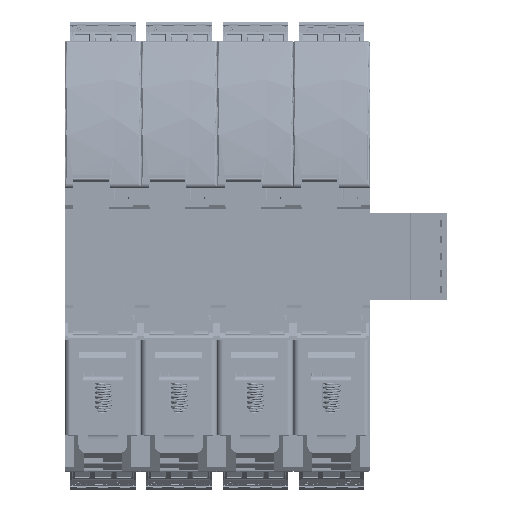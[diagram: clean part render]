
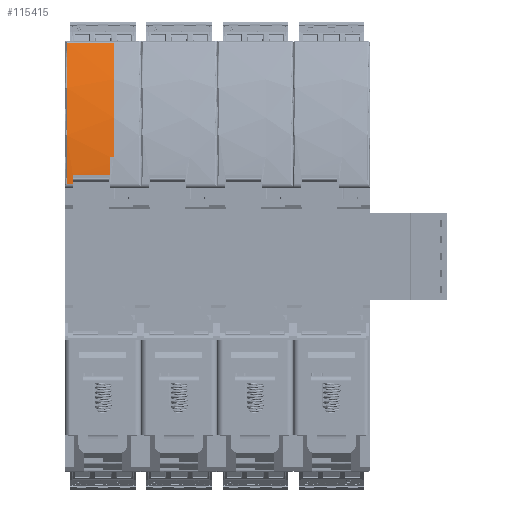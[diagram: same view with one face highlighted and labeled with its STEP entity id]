
A CAD part, front view. The second image highlights one B-rep face of the part: STEP entity #115415.
In plain terms, the highlighted cylindrical face has radius 80 mm (diameter 160 mm), a partial arc.
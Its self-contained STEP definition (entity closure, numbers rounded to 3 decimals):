
#115415=ADVANCED_FACE('',(#248925),#248927,.T.);
#248925=FACE_BOUND('',#248926,.T.);
#248926=EDGE_LOOP('',(#354935,#354936,#354937,#354938,#354939,#354940,#354941,#354942));
#248927=CYLINDRICAL_SURFACE('',#248928,80.);
#248928=AXIS2_PLACEMENT_3D('',#248929,#248930,#248931);
#248929=CARTESIAN_POINT('',(-1.7,13.5,75.75));
#248930=DIRECTION('',(-1.,0.,0.));
#248931=DIRECTION('',(0.,-1.,0.));
#354935=ORIENTED_EDGE('',*,*,#414774,.F.);
#354936=ORIENTED_EDGE('',*,*,#414775,.T.);
#354937=ORIENTED_EDGE('',*,*,#414776,.F.);
#354938=ORIENTED_EDGE('',*,*,#414777,.T.);
#354939=ORIENTED_EDGE('',*,*,#414778,.F.);
#354940=ORIENTED_EDGE('',*,*,#414779,.T.);
#354941=ORIENTED_EDGE('',*,*,#414474,.T.);
#354942=ORIENTED_EDGE('',*,*,#414472,.T.);
#414472=EDGE_CURVE('',#482327,#482325,#482328,.T.);
#414474=EDGE_CURVE('',#482330,#482327,#482331,.T.);
#414774=EDGE_CURVE('',#482865,#482325,#482867,.T.);
#414775=EDGE_CURVE('',#482865,#482868,#482869,.T.);
#414776=EDGE_CURVE('',#482870,#482868,#482871,.T.);
#414777=EDGE_CURVE('',#482870,#482872,#482873,.T.);
#414778=EDGE_CURVE('',#482874,#482872,#482875,.T.);
#414779=EDGE_CURVE('',#482874,#482330,#482876,.T.);
#482325=VERTEX_POINT('',#646364);
#482327=VERTEX_POINT('',#646369);
#482328=LINE('',#646370,#646371);
#482330=VERTEX_POINT('',#646425);
#482331=CIRCLE('',#646426,80.);
#482865=VERTEX_POINT('',#648041);
#482867=CIRCLE('',#648045,80.);
#482868=VERTEX_POINT('',#648049);
#482869=LINE('',#648050,#648051);
#482870=VERTEX_POINT('',#648053);
#482871=CIRCLE('',#648054,80.);
#482872=VERTEX_POINT('',#648058);
#482873=LINE('',#648059,#648060);
#482874=VERTEX_POINT('',#648062);
#482875=CIRCLE('',#648063,80.);
#482876=LINE('',#648067,#648068);
#646364=CARTESIAN_POINT('',(6.9,16.741,-4.184));
#646369=CARTESIAN_POINT('',(8.3,16.741,-4.184));
#646370=CARTESIAN_POINT('',(8.3,16.741,-4.184));
#646371=VECTOR('',#646372,1.);
#646372=DIRECTION('',(-1.,0.,0.));
#646425=CARTESIAN_POINT('',(8.3,49.223,4.169));
#646426=AXIS2_PLACEMENT_3D('',#646427,#646428,#646429);
#646427=CARTESIAN_POINT('',(8.3,13.5,75.75));
#646428=DIRECTION('',(-1.,0.,0.));
#646429=DIRECTION('',(0.,0.447,-0.895));
#648041=CARTESIAN_POINT('',(6.9,18.7,-4.081));
#648045=AXIS2_PLACEMENT_3D('',#648046,#648047,#648048);
#648046=CARTESIAN_POINT('',(6.9,13.5,75.75));
#648047=DIRECTION('',(-1.,0.,0.));
#648048=DIRECTION('',(0.,0.065,-0.998));
#648049=CARTESIAN_POINT('',(-1.7,18.7,-4.081));
#648050=CARTESIAN_POINT('',(6.9,18.7,-4.081));
#648051=VECTOR('',#648052,1.);
#648052=DIRECTION('',(-1.,0.,0.));
#648053=CARTESIAN_POINT('',(-1.7,22.9,-3.696));
#648054=AXIS2_PLACEMENT_3D('',#648055,#648056,#648057);
#648055=CARTESIAN_POINT('',(-1.7,13.5,75.75));
#648056=DIRECTION('',(-1.,0.,0.));
#648057=DIRECTION('',(0.,0.118,-0.993));
#648058=CARTESIAN_POINT('',(-2.5,22.9,-3.696));
#648059=CARTESIAN_POINT('',(-1.7,22.9,-3.696));
#648060=VECTOR('',#648061,1.);
#648061=DIRECTION('',(-1.,0.,0.));
#648062=CARTESIAN_POINT('',(-2.5,49.223,4.169));
#648063=AXIS2_PLACEMENT_3D('',#648064,#648065,#648066);
#648064=CARTESIAN_POINT('',(-2.5,13.5,75.75));
#648065=DIRECTION('',(-1.,0.,0.));
#648066=DIRECTION('',(0.,0.447,-0.895));
#648067=CARTESIAN_POINT('',(-2.5,49.223,4.169));
#648068=VECTOR('',#648069,1.);
#648069=DIRECTION('',(1.,0.,0.));
